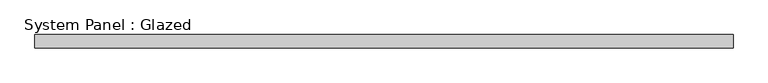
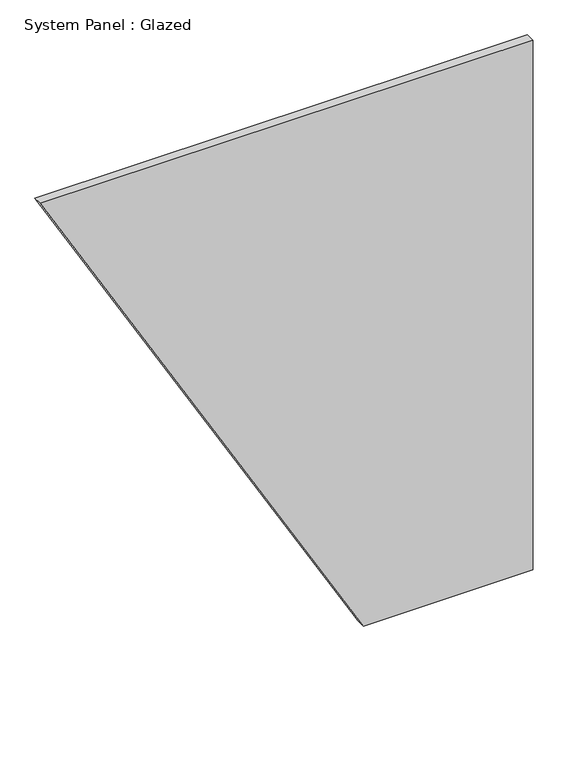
"""IFC4 building model written with IfcOpenShell, lengths in millimetres: plate geometry, System Panel : Glazed."""

from ifc_helpers import new_model, si_unit, frame, origin, place, context, project, spatial, polyline, outline, extrude, source, transform, mapped, element, save


def system_panel_glazed_42882d86(model_context):
    return source(origin(), model_context, "Body", "SweptSolid", [
        extrude(outline(polyline([(0.0, 209.2338472), (0.0, 670.647963), (1524.0, 670.647963), (1524.0, -670.647963), (0.0, 209.2338472)])), frame((0.0, 19.05, 0.0), z_axis=(0.0, 1.0, 0.0), x_axis=(0.0, 0.0, 1.0)), (0.0, 0.0, 1.0), 25.4),
    ])


if __name__ == "__main__":
    model = new_model("IFC4")
    model_context = context("Model", 3, world=origin())
    ifc_project = project(units=[si_unit("LENGTHUNIT", "METRE", prefix="MILLI")], contexts=[model_context])
    site = spatial("IfcSite", under=ifc_project)
    building = spatial("IfcBuilding", under=site)
    placement = place(None, origin())
    system_panel_glazed_shape = system_panel_glazed_42882d86(model_context)
    element("IfcPlate", 1, ObjectType="System Panel : Glazed", at=placement, inside=building, context=model_context, shape_type="MappedRepresentation", body=[
        mapped(system_panel_glazed_shape, transform((0.0, 0.0, 0.0), x_axis=(1.0, 0.0, 0.0), y_axis=(0.0, 1.0, 0.0), z_axis=(0.0, 0.0, 1.0))),
    ])
    save(model, "model.ifc")
